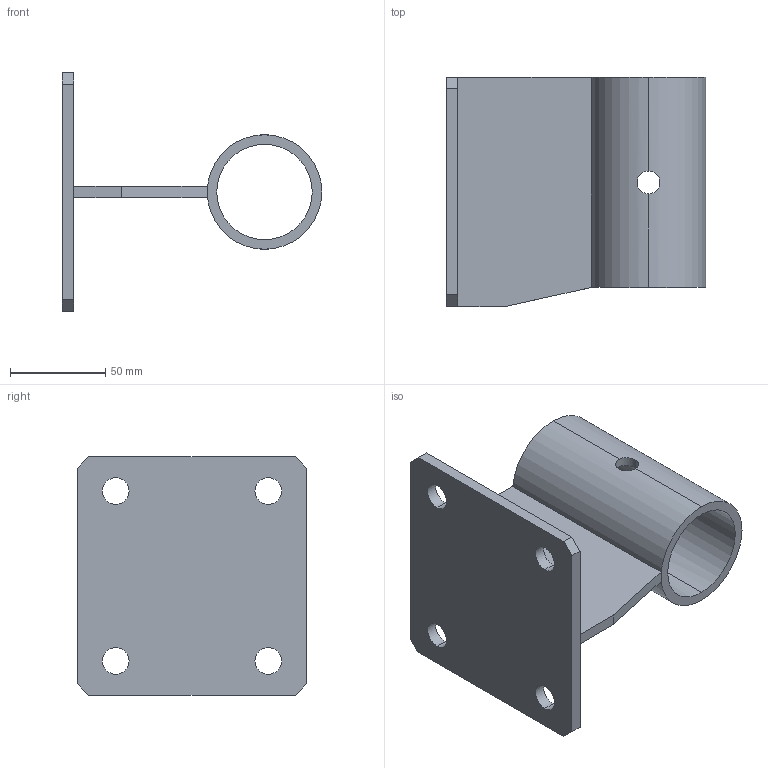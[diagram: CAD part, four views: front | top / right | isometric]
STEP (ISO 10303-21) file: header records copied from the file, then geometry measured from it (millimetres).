
FILE_DESCRIPTION (( 'STEP AP203' ), '1' );
FILE_NAME ('RXR-SMB-SS316 STEP.STEP', '2022-06-14T06:21:36', ( '' ), ( '' ), 'SwSTEP 2.0', 'SolidWorks 2020', '' );
FILE_SCHEMA (( 'CONFIG_CONTROL_DESIGN' ));
Length unit declared in the file: millimetre
Products named in the file (4): RXR-SMB-SS316 FLAT PLATE 1 STEP; RXR-SMB-SS316 TUBE STEP; RXR-SMB-SS316 STEP; RXR-SMB-SS316 FLAT PLATE 3 STEP
Assembly tree (3 placements, depth 2):
  RXR-SMB-SS316 STEP
    RXR-SMB-SS316 TUBE STEP
    RXR-SMB-SS316 FLAT PLATE 1 STEP
    RXR-SMB-SS316 FLAT PLATE 3 STEP
Bounding box: 136 x 120 x 125 mm (x, y, z)
Volume: 228818.8 mm3; surface area: 90779.9 mm2
Topology: 3 solids, 3 shells, 35 faces, 99 edges, 66 vertices
Faces by surface type: plane 19, cylinder 16
Entity records: 1887 total; most frequent: CARTESIAN_POINT 546, ORIENTED_EDGE 198, DIRECTION 189, EDGE_CURVE 99, VERTEX_POINT 66, AXIS2_PLACEMENT_3D 65, LINE 59, VECTOR 59
